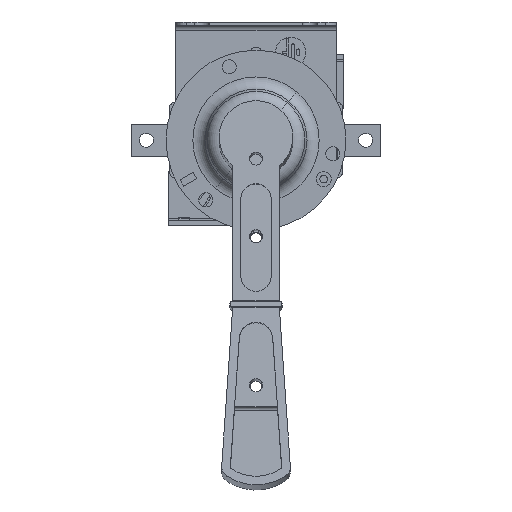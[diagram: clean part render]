
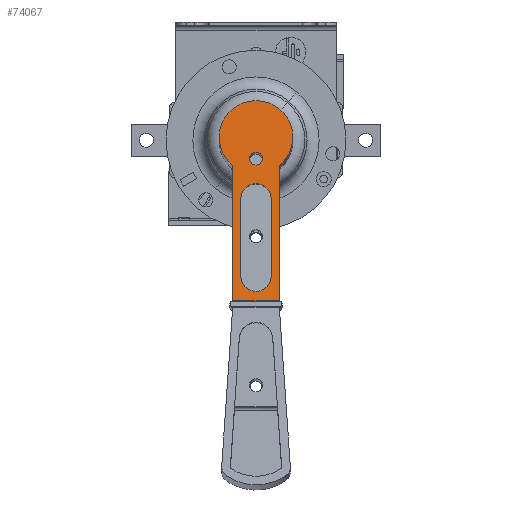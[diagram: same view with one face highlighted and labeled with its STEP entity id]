
A CAD part, left-side view. The second image highlights one B-rep face of the part: STEP entity #74067.
In plain terms, the highlighted planar face has unit normal (-0.992, 0, 0.128) as drawn and (0, -1, 0) by its records, which use the part's own axes.
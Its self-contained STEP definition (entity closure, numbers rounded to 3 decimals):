
#44 = AXIS2_PLACEMENT_3D ( 'NONE', #32293, #69480, #107068 ) ;
#2809 = FACE_OUTER_BOUND ( 'NONE', #75242, .T. ) ;
#4083 = EDGE_CURVE ( 'NONE', #24886, #79485, #54867, .T. ) ;
#4770 = DIRECTION ( 'NONE',  ( 0., -1., 0. ) ) ;
#13305 = CARTESIAN_POINT ( 'NONE',  ( 45.166, -4.79, 0. ) ) ;
#13914 = AXIS2_PLACEMENT_3D ( 'NONE', #45301, #112471, #84138 ) ;
#14121 = EDGE_CURVE ( 'NONE', #91121, #77046, #33504, .T. ) ;
#14202 = VERTEX_POINT ( 'NONE', #108921 ) ;
#14683 = CARTESIAN_POINT ( 'NONE',  ( 45.166, -4.79, -7. ) ) ;
#16297 = CARTESIAN_POINT ( 'NONE',  ( -19.465, -4.79, 17. ) ) ;
#18194 = ORIENTED_EDGE ( 'NONE', *, *, #123666, .F. ) ;
#18482 = DIRECTION ( 'NONE',  ( -1., 0., 0. ) ) ;
#19182 = LINE ( 'NONE', #104896, #72975 ) ;
#24886 = VERTEX_POINT ( 'NONE', #117337 ) ;
#26313 = ORIENTED_EDGE ( 'NONE', *, *, #99375, .F. ) ;
#26609 = FACE_BOUND ( 'NONE', #73306, .T. ) ;
#26648 = CARTESIAN_POINT ( 'NONE',  ( 9.166, -4.79, 0. ) ) ;
#26706 = VECTOR ( 'NONE', #39955, 1000. ) ;
#29134 = CARTESIAN_POINT ( 'NONE',  ( -19.465, -4.79, 0. ) ) ;
#29910 = CARTESIAN_POINT ( 'NONE',  ( 56.666, -4.79, 10.75 ) ) ;
#30798 = VERTEX_POINT ( 'NONE', #109071 ) ;
#31739 = CARTESIAN_POINT ( 'NONE',  ( 56.666, -4.79, -10.75 ) ) ;
#32293 = CARTESIAN_POINT ( 'NONE',  ( -19.465, -4.79, 0. ) ) ;
#32611 = FACE_BOUND ( 'NONE', #100619, .T. ) ;
#32657 = EDGE_CURVE ( 'NONE', #79485, #117720, #93967, .T. ) ;
#33314 = DIRECTION ( 'NONE',  ( 0., 0., -1. ) ) ;
#33360 = ORIENTED_EDGE ( 'NONE', *, *, #111427, .F. ) ;
#33504 = CIRCLE ( 'NONE', #79018, 7. ) ;
#34478 = CIRCLE ( 'NONE', #100605, 3. ) ;
#39759 = CARTESIAN_POINT ( 'NONE',  ( -9.534, -4.79, 3. ) ) ;
#39955 = DIRECTION ( 'NONE',  ( 1., 0., 0. ) ) ;
#39986 = DIRECTION ( 'NONE',  ( 0., -1., 0. ) ) ;
#41130 = CARTESIAN_POINT ( 'NONE',  ( -9.534, -4.79, 0. ) ) ;
#43384 = DIRECTION ( 'NONE',  ( 0., 0., -1. ) ) ;
#43850 = LINE ( 'NONE', #98761, #88687 ) ;
#44073 = VERTEX_POINT ( 'NONE', #31739 ) ;
#45301 = CARTESIAN_POINT ( 'NONE',  ( -35.334, -4.79, 17. ) ) ;
#50349 = ORIENTED_EDGE ( 'NONE', *, *, #32657, .T. ) ;
#52155 = LINE ( 'NONE', #113057, #26706 ) ;
#52294 = ORIENTED_EDGE ( 'NONE', *, *, #62182, .F. ) ;
#54867 = CIRCLE ( 'NONE', #56797, 17. ) ;
#56102 = LINE ( 'NONE', #61723, #111402 ) ;
#56797 = AXIS2_PLACEMENT_3D ( 'NONE', #85008, #74123, #94584 ) ;
#57977 = ORIENTED_EDGE ( 'NONE', *, *, #14121, .F. ) ;
#59865 = AXIS2_PLACEMENT_3D ( 'NONE', #82782, #110725, #111539 ) ;
#59936 = CIRCLE ( 'NONE', #59865, 3. ) ;
#61323 = DIRECTION ( 'NONE',  ( 0., -1., 0. ) ) ;
#61723 = CARTESIAN_POINT ( 'NONE',  ( 56.666, -4.79, 17. ) ) ;
#62182 = EDGE_CURVE ( 'NONE', #30798, #72903, #120381, .T. ) ;
#62979 = CARTESIAN_POINT ( 'NONE',  ( 45.166, -4.79, 7. ) ) ;
#64470 = PLANE ( 'NONE',  #13914 ) ;
#64760 = CARTESIAN_POINT ( 'NONE',  ( -19.465, -4.79, -17. ) ) ;
#67941 = DIRECTION ( 'NONE',  ( 0., 0., -1. ) ) ;
#68009 = ORIENTED_EDGE ( 'NONE', *, *, #119996, .T. ) ;
#69480 = DIRECTION ( 'NONE',  ( 0., -1., 0. ) ) ;
#71553 = DIRECTION ( 'NONE',  ( 0., 0., -1. ) ) ;
#72903 = VERTEX_POINT ( 'NONE', #112213 ) ;
#72975 = VECTOR ( 'NONE', #18482, 1000. ) ;
#73306 = EDGE_LOOP ( 'NONE', ( #26313, #81919 ) ) ;
#74067 = ADVANCED_FACE ( 'NONE', ( #26609, #2809, #32611 ), #64470, .F. ) ;
#74123 = DIRECTION ( 'NONE',  ( 0., -1., 0. ) ) ;
#74483 = CARTESIAN_POINT ( 'NONE',  ( -9.534, -4.79, -3. ) ) ;
#75242 = EDGE_LOOP ( 'NONE', ( #96178, #50349, #68009, #83100, #33360, #85875 ) ) ;
#77046 = VERTEX_POINT ( 'NONE', #62979 ) ;
#79018 = AXIS2_PLACEMENT_3D ( 'NONE', #13305, #61323, #33314 ) ;
#79485 = VERTEX_POINT ( 'NONE', #16297 ) ;
#81379 = AXIS2_PLACEMENT_3D ( 'NONE', #29134, #39986, #67941 ) ;
#81919 = ORIENTED_EDGE ( 'NONE', *, *, #98877, .F. ) ;
#82782 = CARTESIAN_POINT ( 'NONE',  ( -9.534, -4.79, 0. ) ) ;
#83100 = ORIENTED_EDGE ( 'NONE', *, *, #114140, .T. ) ;
#83221 = EDGE_CURVE ( 'NONE', #105977, #24886, #19182, .T. ) ;
#83546 = VERTEX_POINT ( 'NONE', #39759 ) ;
#84138 = DIRECTION ( 'NONE',  ( 0., 0., 1. ) ) ;
#85008 = CARTESIAN_POINT ( 'NONE',  ( -19.465, -4.79, 0. ) ) ;
#85875 = ORIENTED_EDGE ( 'NONE', *, *, #83221, .T. ) ;
#87165 = LINE ( 'NONE', #92126, #122925 ) ;
#87709 = VERTEX_POINT ( 'NONE', #74483 ) ;
#88687 = VECTOR ( 'NONE', #117924, 1000. ) ;
#91121 = VERTEX_POINT ( 'NONE', #14683 ) ;
#92126 = CARTESIAN_POINT ( 'NONE',  ( -35.334, -4.79, -10.75 ) ) ;
#93661 = CIRCLE ( 'NONE', #44, 17. ) ;
#93967 = CIRCLE ( 'NONE', #81379, 17. ) ;
#94584 = DIRECTION ( 'NONE',  ( 0., 0., -1. ) ) ;
#96178 = ORIENTED_EDGE ( 'NONE', *, *, #4083, .T. ) ;
#96183 = AXIS2_PLACEMENT_3D ( 'NONE', #26648, #101005, #102653 ) ;
#98761 = CARTESIAN_POINT ( 'NONE',  ( 45.166, -4.79, 7. ) ) ;
#98877 = EDGE_CURVE ( 'NONE', #83546, #87709, #59936, .T. ) ;
#99375 = EDGE_CURVE ( 'NONE', #87709, #83546, #34478, .T. ) ;
#100605 = AXIS2_PLACEMENT_3D ( 'NONE', #41130, #4770, #71553 ) ;
#100619 = EDGE_LOOP ( 'NONE', ( #106686, #52294, #18194, #57977 ) ) ;
#100891 = DIRECTION ( 'NONE',  ( 1., 0., 0. ) ) ;
#101005 = DIRECTION ( 'NONE',  ( 0., -1., 0. ) ) ;
#102653 = DIRECTION ( 'NONE',  ( 0., 0., -1. ) ) ;
#104896 = CARTESIAN_POINT ( 'NONE',  ( -35.334, -4.79, 10.75 ) ) ;
#105977 = VERTEX_POINT ( 'NONE', #29910 ) ;
#106686 = ORIENTED_EDGE ( 'NONE', *, *, #108134, .F. ) ;
#107068 = DIRECTION ( 'NONE',  ( 0., 0., -1. ) ) ;
#108134 = EDGE_CURVE ( 'NONE', #72903, #91121, #52155, .T. ) ;
#108921 = CARTESIAN_POINT ( 'NONE',  ( -6.295, -4.79, -10.75 ) ) ;
#109071 = CARTESIAN_POINT ( 'NONE',  ( 9.166, -4.79, 7. ) ) ;
#110725 = DIRECTION ( 'NONE',  ( 0., -1., 0. ) ) ;
#111402 = VECTOR ( 'NONE', #43384, 1000. ) ;
#111427 = EDGE_CURVE ( 'NONE', #105977, #44073, #56102, .T. ) ;
#111539 = DIRECTION ( 'NONE',  ( 0., 0., -1. ) ) ;
#112213 = CARTESIAN_POINT ( 'NONE',  ( 9.166, -4.79, -7. ) ) ;
#112471 = DIRECTION ( 'NONE',  ( 0., 1., 0. ) ) ;
#113057 = CARTESIAN_POINT ( 'NONE',  ( 9.166, -4.79, -7. ) ) ;
#114140 = EDGE_CURVE ( 'NONE', #14202, #44073, #87165, .T. ) ;
#117337 = CARTESIAN_POINT ( 'NONE',  ( -6.295, -4.79, 10.75 ) ) ;
#117720 = VERTEX_POINT ( 'NONE', #64760 ) ;
#117924 = DIRECTION ( 'NONE',  ( -1., 0., 0. ) ) ;
#119996 = EDGE_CURVE ( 'NONE', #117720, #14202, #93661, .T. ) ;
#120381 = CIRCLE ( 'NONE', #96183, 7. ) ;
#122925 = VECTOR ( 'NONE', #100891, 1000. ) ;
#123666 = EDGE_CURVE ( 'NONE', #77046, #30798, #43850, .T. ) ;
